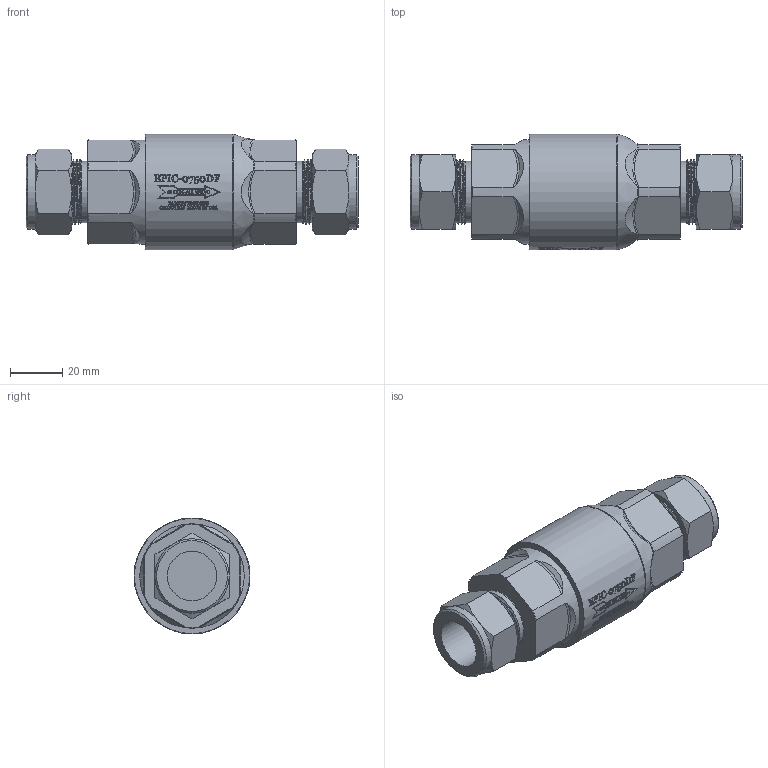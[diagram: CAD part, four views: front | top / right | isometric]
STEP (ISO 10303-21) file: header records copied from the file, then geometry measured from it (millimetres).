
FILE_DESCRIPTION(/* description */ ('Unknown'),/* implementation_level */ '2;1');
FILE_NAME(/* name */ 'EPIC0750DF',/* time_stamp */ '2017-01-10T14:07:40-06:00',/* author */ ('Unknown'),/* organization */ ('Unknown'),/* preprocessor_version */ 'ST-DEVELOPER v16.7',/* originating_system */ 'DEX',/* authorisation */ $);
FILE_SCHEMA (('AUTOMOTIVE_DESIGN {1 0 10303 214 3 1 1}'));
Products named in the file (1): EPIC0750DF
Bounding box: 127.41 x 44.45 x 44.45 mm (x, y, z)
Volume: 121810.9 mm3; surface area: 21856.8 mm2
Topology: 1 solids, 1 shells, 825 faces, 2191 edges, 1451 vertices
Faces by surface type: plane 466, bspline 145, cylinder 136, cone 41, torus 36, sphere 1
Full cylindrical faces by diameter (mm): 19.05 x2, 23.715 x2, 28.575 x2, 40.005 x1, 44.45 x1
Entity records: 45212 total; most frequent: CARTESIAN_POINT 20245, ORIENTED_EDGE 4316, DIRECTION 3480, EDGE_CURVE 2158, VERTEX_POINT 1441, AXIS2_PLACEMENT_3D 1320, EDGE_LOOP 931, FACE_BOUND 931
